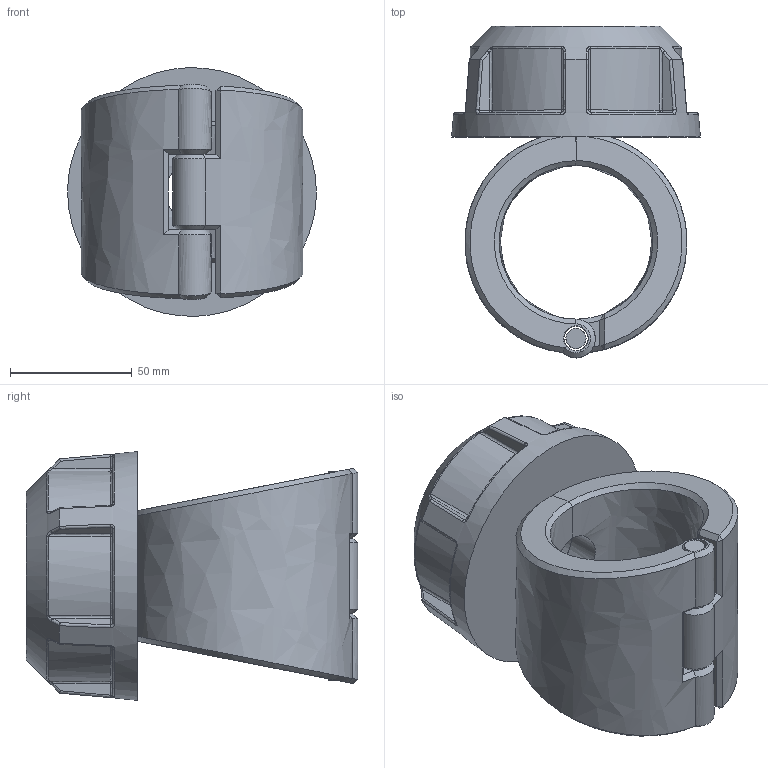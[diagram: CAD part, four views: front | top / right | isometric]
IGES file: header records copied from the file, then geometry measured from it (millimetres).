
Global section: file name: 163000063015; native system: Autodesk Inventor 2019; preprocessor: unknown; author: comp2; date: 20220203.114654; units: millimetre
Bounding box: 102 x 136 x 101.96 mm (x, y, z)
Volume: 454084.8 mm3; surface area: 80188.1 mm2
Topology: 4 solids, 4 shells, 203 faces, 486 edges, 293 vertices
Faces by surface type: bspline 203
